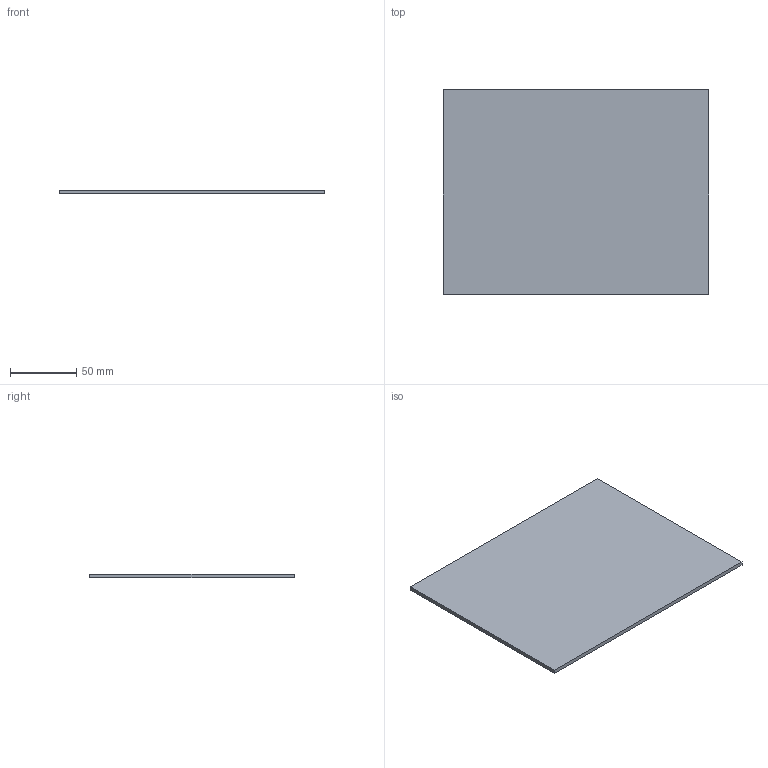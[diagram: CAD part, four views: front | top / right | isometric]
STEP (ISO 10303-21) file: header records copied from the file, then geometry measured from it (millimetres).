
FILE_DESCRIPTION(('Open CASCADE Model'),'2;1');
FILE_NAME('Open CASCADE Shape Model','2026-10-06T19:56:10',('Author'),( 'Open CASCADE'),'Open CASCADE STEP processor 7.9','Open CASCADE 7.9' ,'Unknown');
FILE_SCHEMA(('AUTOMOTIVE_DESIGN { 1 0 10303 214 1 1 1 1 }'));
Length unit declared in the file: millimetre
Products named in the file (1): Open CASCADE STEP translator 7.9 31
Bounding box: 200 x 154 x 3 mm (x, y, z)
Volume: 92400 mm3; surface area: 63724 mm2
Topology: 1 solids, 1 shells, 6 faces, 12 edges, 8 vertices
Faces by surface type: plane 6
Entity records: 322 total; most frequent: CARTESIAN_POINT 51, DIRECTION 50, LINE 36, VECTOR 36, ORIENTED_EDGE 24, PCURVE 24, DEFINITIONAL_REPRESENTATION 24, EDGE_CURVE 12
